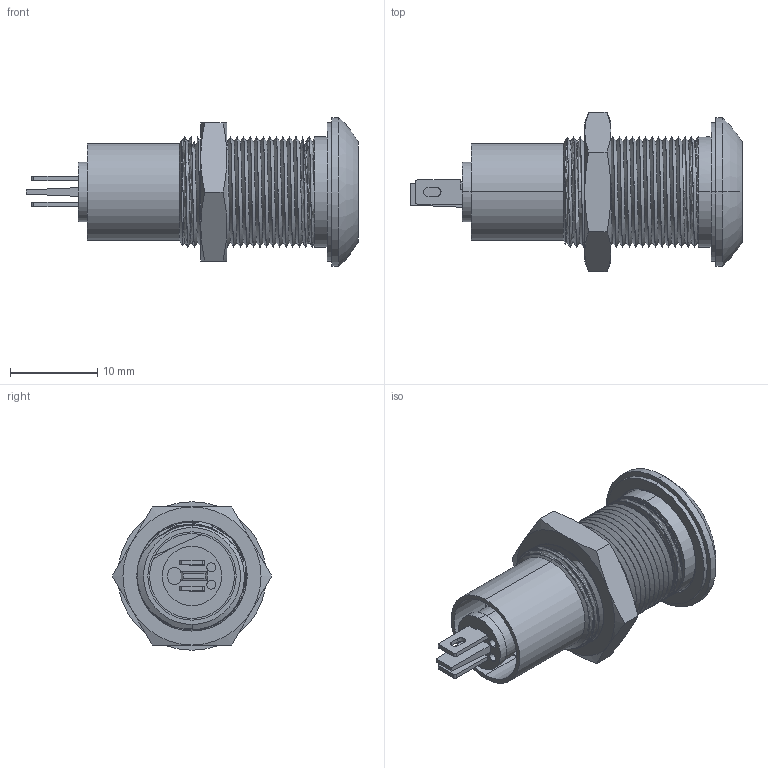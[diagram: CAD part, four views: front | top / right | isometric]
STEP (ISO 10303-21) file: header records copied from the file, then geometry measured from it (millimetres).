
FILE_DESCRIPTION (( 'STEP AP203' ), '1' );
FILE_NAME ('538 WITH TAGS ABOVE 50VAC.STEP', '2016-01-06T15:30:28', ( '' ), ( '' ), 'SwSTEP 2.0', 'SolidWorks 2015', '' );
FILE_SCHEMA (( 'CONFIG_CONTROL_DESIGN' ));
Length unit declared in the file: millimetre
Products named in the file (8): COM7807HALFTAG; COM5000; 538 WITH TAGS ABOVE 50VAC; COM3576_COM3579; COM4915MOD_COM4915; COM7808C_NEW; COM3579; 10FDR
Assembly tree (8 placements, depth 2):
  538 WITH TAGS ABOVE 50VAC
    COM4915MOD_COM4915
    COM7808C_NEW
    COM5000
    COM3576_COM3579
    10FDR
    COM7807HALFTAG  x2
    COM3579
Bounding box: 38 x 18.24 x 17 mm (x, y, z)
Volume: 1947.5 mm3; surface area: 4285.7 mm2
Topology: 8 solids, 8 shells, 411 faces, 931 edges, 572 vertices
Faces by surface type: cylinder 149, torus 136, plane 110, cone 14, bspline 2
Entity records: 15143 total; most frequent: CARTESIAN_POINT 5371, DIRECTION 2073, ORIENTED_EDGE 1760, AXIS2_PLACEMENT_3D 897, EDGE_CURVE 880, VERTEX_POINT 538, CIRCLE 496, EDGE_LOOP 448
